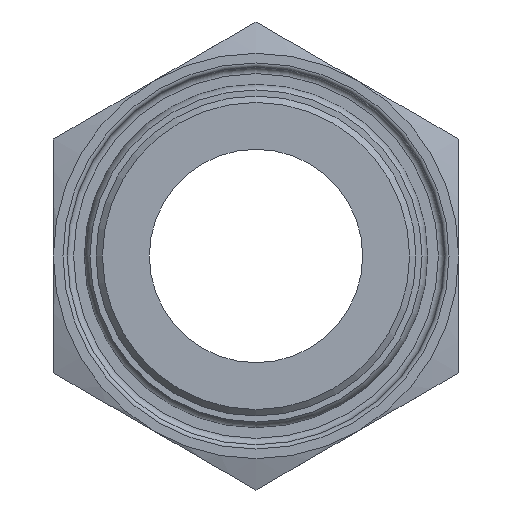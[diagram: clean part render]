
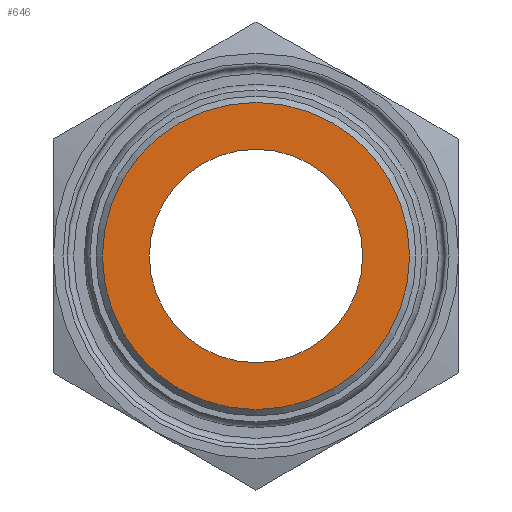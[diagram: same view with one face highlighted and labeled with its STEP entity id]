
A CAD part, front view. The second image highlights one B-rep face of the part: STEP entity #646.
In plain terms, the highlighted planar face has unit normal (0, -1, 0).
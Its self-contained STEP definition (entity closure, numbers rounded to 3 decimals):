
#72=FACE_BOUND('',#166,.T.);
#83=PLANE('',#794);
#116=FACE_OUTER_BOUND('',#165,.T.);
#165=EDGE_LOOP('',(#501));
#166=EDGE_LOOP('',(#502));
#258=CIRCLE('',#778,5.);
#266=CIRCLE('',#789,7.2);
#305=VERTEX_POINT('',#1123);
#313=VERTEX_POINT('',#1144);
#369=EDGE_CURVE('',#305,#305,#258,.T.);
#378=EDGE_CURVE('',#313,#313,#266,.T.);
#501=ORIENTED_EDGE('',*,*,#378,.F.);
#502=ORIENTED_EDGE('',*,*,#369,.T.);
#646=ADVANCED_FACE('',(#116,#72),#83,.T.);
#778=AXIS2_PLACEMENT_3D('',#1125,#914,#915);
#789=AXIS2_PLACEMENT_3D('',#1145,#937,#938);
#794=AXIS2_PLACEMENT_3D('',#1155,#949,#950);
#914=DIRECTION('center_axis',(0.,1.,0.));
#915=DIRECTION('ref_axis',(1.,0.,0.));
#937=DIRECTION('center_axis',(0.,1.,0.));
#938=DIRECTION('ref_axis',(-1.,0.,0.));
#949=DIRECTION('center_axis',(0.,-1.,0.));
#950=DIRECTION('ref_axis',(0.,0.,-1.));
#1123=CARTESIAN_POINT('',(-5.,-7.2,0.));
#1125=CARTESIAN_POINT('Origin',(0.,-7.2,0.));
#1144=CARTESIAN_POINT('',(7.2,-7.2,0.));
#1145=CARTESIAN_POINT('Origin',(0.,-7.2,0.));
#1155=CARTESIAN_POINT('Origin',(0.,-7.2,0.));
